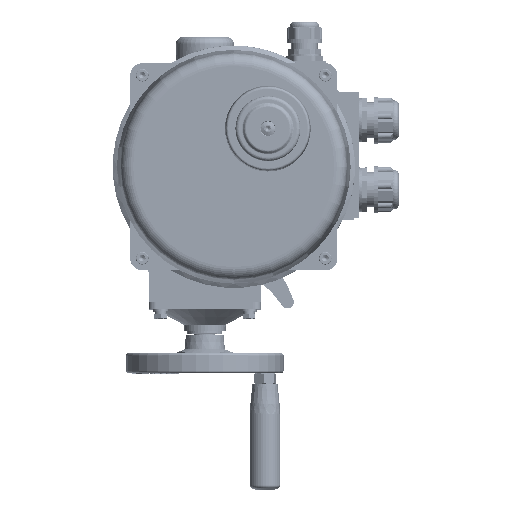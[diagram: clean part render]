
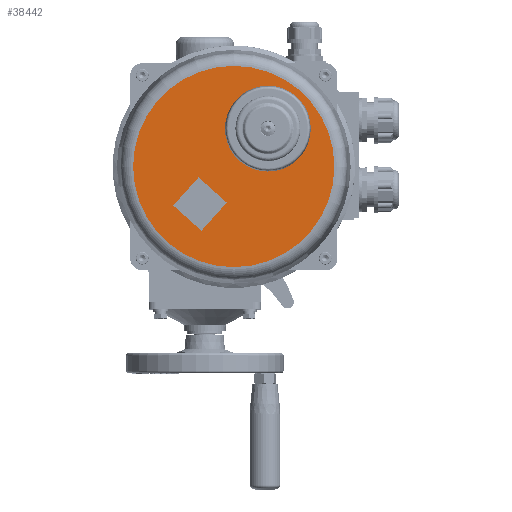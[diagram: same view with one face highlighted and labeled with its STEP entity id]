
A CAD part, top view. The second image highlights one B-rep face of the part: STEP entity #38442.
In plain terms, the highlighted planar face has unit normal (0, 0, 1).
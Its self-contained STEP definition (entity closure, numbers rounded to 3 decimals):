
#38442=ADVANCED_FACE('',(#67795,#67797,#67799),#67801,.T.);
#67795=FACE_BOUND('',#67796,.T.);
#67796=EDGE_LOOP('',(#87781,#87782));
#67797=FACE_BOUND('',#67798,.T.);
#67798=EDGE_LOOP('',(#87783));
#67799=FACE_BOUND('',#67800,.T.);
#67800=EDGE_LOOP('',(#87784,#87785,#87786,#87787));
#67801=PLANE('',#67802);
#67802=AXIS2_PLACEMENT_3D('',#67803,#67804,#67805);
#67803=CARTESIAN_POINT('',(443.126,-182.514,224.413));
#67804=DIRECTION('',(0.,0.,1.));
#67805=DIRECTION('',(1.,0.,0.));
#87781=ORIENTED_EDGE('',*,*,#100990,.T.);
#87782=ORIENTED_EDGE('',*,*,#100991,.T.);
#87783=ORIENTED_EDGE('',*,*,#101144,.T.);
#87784=ORIENTED_EDGE('',*,*,#101145,.T.);
#87785=ORIENTED_EDGE('',*,*,#101146,.T.);
#87786=ORIENTED_EDGE('',*,*,#101147,.T.);
#87787=ORIENTED_EDGE('',*,*,#101148,.T.);
#100990=EDGE_CURVE('',#123356,#123357,#123358,.T.);
#100991=EDGE_CURVE('',#123357,#123356,#123359,.T.);
#101144=EDGE_CURVE('',#123618,#123618,#123619,.T.);
#101145=EDGE_CURVE('',#123620,#123621,#123622,.T.);
#101146=EDGE_CURVE('',#123621,#123623,#123624,.T.);
#101147=EDGE_CURVE('',#123623,#123625,#123626,.T.);
#101148=EDGE_CURVE('',#123625,#123620,#123627,.T.);
#123356=VERTEX_POINT('',#170654);
#123357=VERTEX_POINT('',#170655);
#123358=CIRCLE('',#170656,79.736);
#123359=CIRCLE('',#170660,79.736);
#123618=VERTEX_POINT('',#171433);
#123619=CIRCLE('',#171434,34.);
#123620=VERTEX_POINT('',#171438);
#123621=VERTEX_POINT('',#171439);
#123622=LINE('',#171440,#171441);
#123623=VERTEX_POINT('',#171443);
#123624=LINE('',#171444,#171445);
#123625=VERTEX_POINT('',#171447);
#123626=LINE('',#171448,#171449);
#123627=LINE('',#171451,#171452);
#170654=CARTESIAN_POINT('',(443.126,-222.382,224.413));
#170655=CARTESIAN_POINT('',(443.126,-62.909,224.413));
#170656=AXIS2_PLACEMENT_3D('',#170657,#170658,#170659);
#170657=CARTESIAN_POINT('',(443.126,-142.646,224.413));
#170658=DIRECTION('',(0.,0.,1.));
#170659=DIRECTION('',(0.,-1.,0.));
#170660=AXIS2_PLACEMENT_3D('',#170661,#170662,#170663);
#170661=CARTESIAN_POINT('',(443.126,-142.646,224.413));
#170662=DIRECTION('',(0.,0.,1.));
#170663=DIRECTION('',(0.,1.,0.));
#171433=CARTESIAN_POINT('',(470.126,-78.646,224.413));
#171434=AXIS2_PLACEMENT_3D('',#171435,#171436,#171437);
#171435=CARTESIAN_POINT('',(470.126,-112.646,224.413));
#171436=DIRECTION('',(0.,0.,-1.));
#171437=DIRECTION('',(0.,1.,0.));
#171438=CARTESIAN_POINT('',(417.483,-193.562,224.413));
#171439=CARTESIAN_POINT('',(395.184,-173.493,224.413));
#171440=CARTESIAN_POINT('',(417.483,-193.562,224.413));
#171441=VECTOR('',#171442,1.);
#171442=DIRECTION('',(-0.743,0.669,0.));
#171443=CARTESIAN_POINT('',(415.253,-151.194,224.413));
#171444=CARTESIAN_POINT('',(395.184,-173.493,224.413));
#171445=VECTOR('',#171446,1.);
#171446=DIRECTION('',(0.669,0.743,0.));
#171447=CARTESIAN_POINT('',(437.552,-171.263,224.413));
#171448=CARTESIAN_POINT('',(415.253,-151.194,224.413));
#171449=VECTOR('',#171450,1.);
#171450=DIRECTION('',(0.743,-0.669,0.));
#171451=CARTESIAN_POINT('',(437.552,-171.263,224.413));
#171452=VECTOR('',#171453,1.);
#171453=DIRECTION('',(-0.669,-0.743,0.));
